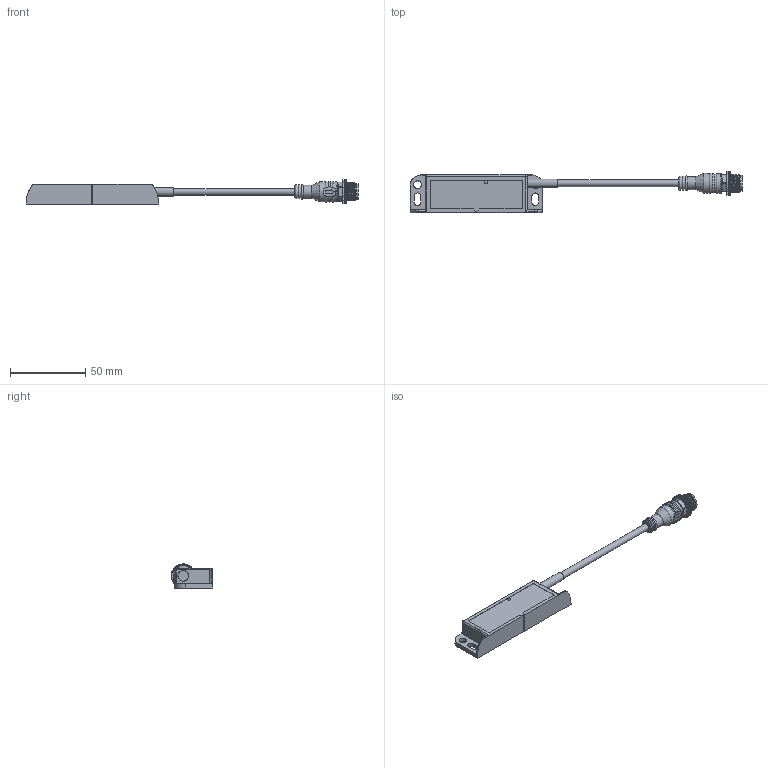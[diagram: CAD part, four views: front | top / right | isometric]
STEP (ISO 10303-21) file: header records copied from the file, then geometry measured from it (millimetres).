
FILE_DESCRIPTION(/* description */ (''),/* implementation_level */ '2;1');
FILE_NAME(/* name */ 'V:/a TO PERSON/Vilius/MC88/Catalogue/CADs/MC88CH2OLT1L.step',/* time_stamp */ '2020-10-27T09:39:40+02:00',/* author */ (''),/* organization */ (''),/* preprocessor_version */ 'ST-DEVELOPER v18.1',/* originating_system */ 'Autodesk Translation Framework v9.3.0.1241',/* authorisation */ '');
FILE_SCHEMA (('AUTOMOTIVE_DESIGN { 1 0 10303 214 3 1 1 }'));
Length unit declared in the file: millimetre
Products named in the file (2): MC88CH2OLT1L; M12_pigtail
Assembly tree (1 placements, depth 2):
  MC88CH2OLT1L
    M12_pigtail
Bounding box: 220.1 x 27.4 x 16 mm (x, y, z)
Volume: 29226.2 mm3; surface area: 20256.6 mm2
Topology: 10 solids, 10 shells, 752 faces, 2128 edges, 1410 vertices
Faces by surface type: plane 393, cylinder 320, bspline 17, torus 10, cone 10, sphere 2
Full cylindrical faces by diameter (mm): 1 x4, 2 x2, 4.4 x2, 5.6 x1, 7 x2, 7.8 x1, 8 x2, 8.2 x2, 8.4 x1, 8.615 x1, 9.8 x2, 10.741 x5, 10.8 x1, 11.884 x6, 13.316 x2
Entity records: 26875 total; most frequent: CARTESIAN_POINT 6799, ORIENTED_EDGE 4256, DIRECTION 4178, EDGE_CURVE 2128, VERTEX_POINT 1410, AXIS2_PLACEMENT_3D 1396, LINE 1386, VECTOR 1386
